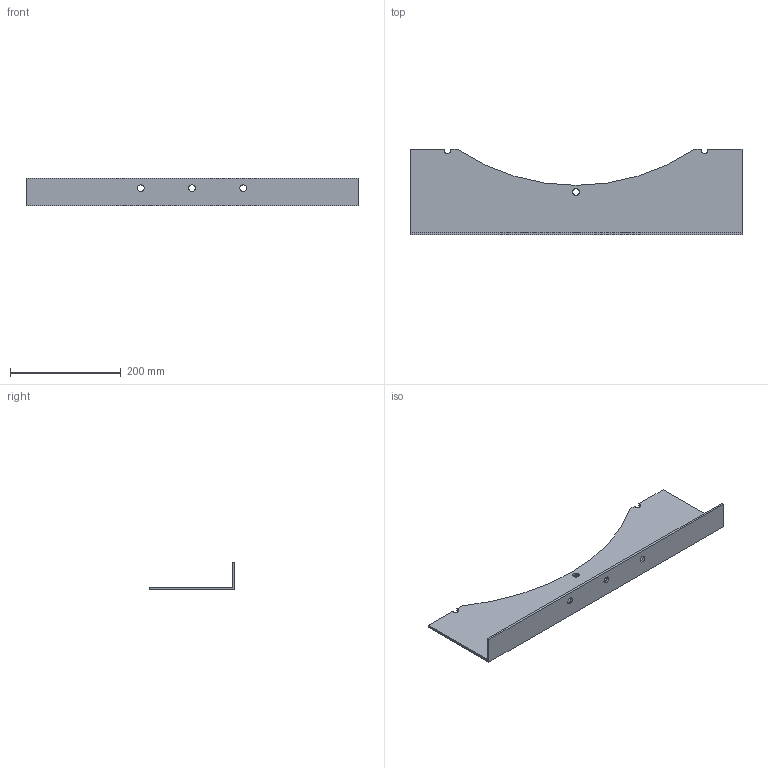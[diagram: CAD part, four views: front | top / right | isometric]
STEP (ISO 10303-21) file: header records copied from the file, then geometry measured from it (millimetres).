
FILE_DESCRIPTION(('STEP AP214'),'1');
FILE_NAME('accessory_5138878300.stp','2017-10-09T07:38:52',('TraceParts'),('TraceParts S.A.'),'Spatial InterOp 3D',' ',' ');
FILE_SCHEMA(('automotive_design'));
Length unit declared in the file: millimetre
Products named in the file (1): accessory_5138878300
Bounding box: 600 x 155 x 50 mm (x, y, z)
Volume: 403691 mm3; surface area: 209053.6 mm2
Topology: 1 solids, 1 shells, 24 faces, 66 edges, 44 vertices
Faces by surface type: cylinder 13, plane 11
Entity records: 1000 total; most frequent: DIRECTION 142, CARTESIAN_POINT 135, ORIENTED_EDGE 132, EDGE_CURVE 66, AXIS2_PLACEMENT_3D 51, VERTEX_POINT 44, LINE 40, VECTOR 40
